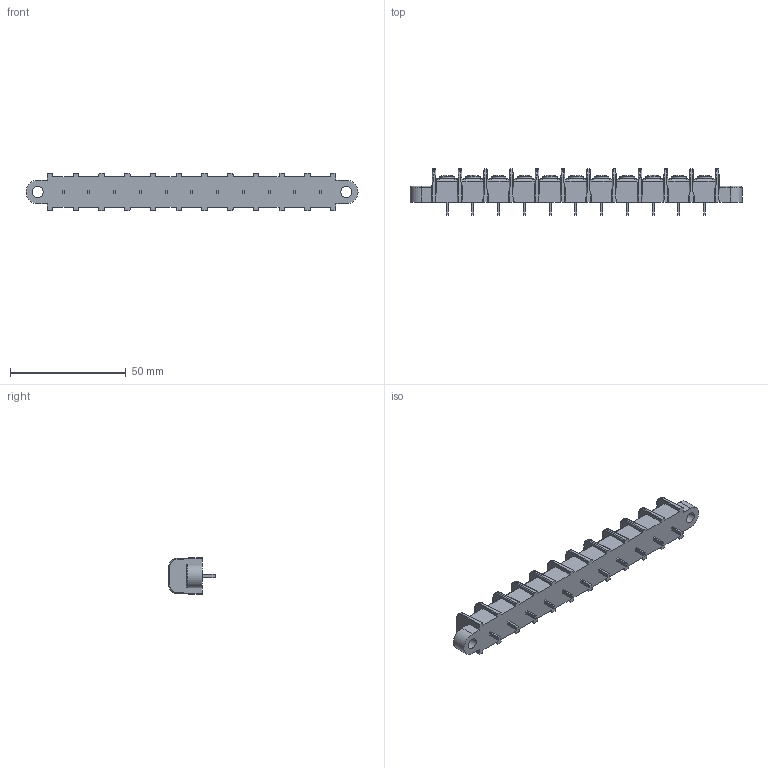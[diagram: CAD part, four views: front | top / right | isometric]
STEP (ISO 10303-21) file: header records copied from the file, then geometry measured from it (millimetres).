
FILE_DESCRIPTION((''),'2;1');
FILE_NAME('387406111','2014-12-29T',('me'),(''),'PRO/ENGINEER BY PARAMETRIC TECHNOLOGY CORPORATION, 2011490','PRO/ENGINEER BY PARAMETRIC TECHNOLOGY CORPORATION, 2011490','');
FILE_SCHEMA(('CONFIG_CONTROL_DESIGN'));
Length unit declared in the file: inch
Products named in the file (1): 387406111
Bounding box: 143.51 x 20.07 x 16 mm (x, y, z)
Volume: 19049 mm3; surface area: 9532.5 mm2
Topology: 1 solids, 1 shells, 685 faces, 1819 edges, 1182 vertices
Faces by surface type: plane 397, cylinder 194, bspline 48, sphere 44, torus 2
Entity records: 23542 total; most frequent: CARTESIAN_POINT 6683, ORIENTED_EDGE 3612, DIRECTION 3369, EDGE_CURVE 1806, VECTOR 1161, LINE 1161, VERTEX_POINT 1156, AXIS2_PLACEMENT_3D 1104
